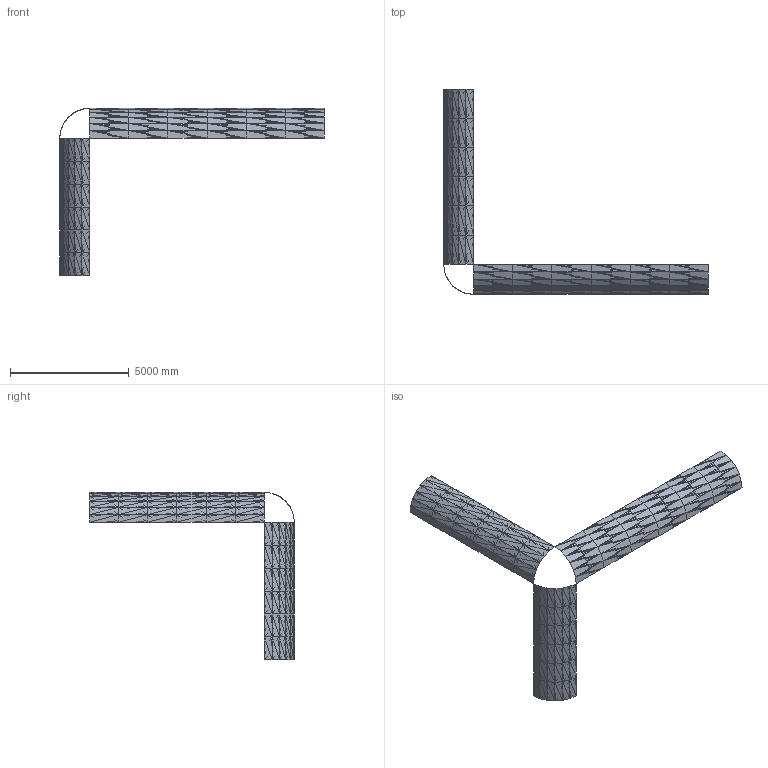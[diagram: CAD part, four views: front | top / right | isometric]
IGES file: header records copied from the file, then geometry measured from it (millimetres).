
Global section: file name: D:\00-tushar\SeGuruCool\bluebond\dfg.IGS; native system:  3D Studio VIZ R3.0 ; preprocessor:  3D Studio VIZ Iges Exporter R3.0 ; author: No Author specified; organization: No Organization specified; units: inch
Bounding box: 11161.9 x 8637.24 x 7065.82 mm (x, y, z)
Surface area: 45861360.1 mm2 (no closed solid volume)
Topology: 0 solids, 0 shells, 216 faces, 864 edges, 648 vertices
Faces by surface type: bspline 216
